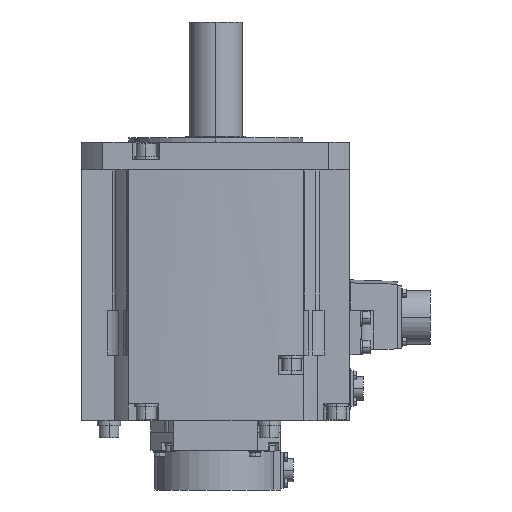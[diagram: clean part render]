
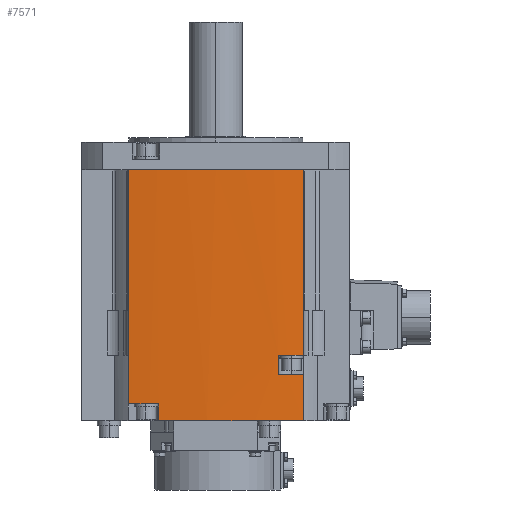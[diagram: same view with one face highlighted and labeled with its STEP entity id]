
A CAD part, left-side view. The second image highlights one B-rep face of the part: STEP entity #7571.
In plain terms, the highlighted cylindrical face has radius 680 mm (diameter 1360 mm), a partial arc.
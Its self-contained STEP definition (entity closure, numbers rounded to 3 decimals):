
#385=CARTESIAN_POINT('',(592.,0.,-139.5));
#386=DIRECTION('',(0.,0.,1.));
#387=DIRECTION('',(-0.997,-0.078,0.));
#388=AXIS2_PLACEMENT_3D('',#385,#386,#387);
#417=CARTESIAN_POINT('',(592.,0.,-139.5));
#418=DIRECTION('',(0.,0.,1.));
#419=DIRECTION('',(-0.998,-0.06,0.));
#420=AXIS2_PLACEMENT_3D('',#417,#418,#419);
#541=DIRECTION('',(0.,0.,-1.));
#542=VECTOR('',#541,153.5);
#543=CARTESIAN_POINT('',(-85.565,57.5,-18.));
#544=LINE('',#543,#542);
#565=CARTESIAN_POINT('',(592.,0.,-171.5));
#566=DIRECTION('',(0.,0.,-1.));
#567=DIRECTION('',(-0.998,0.064,0.));
#568=AXIS2_PLACEMENT_3D('',#565,#566,#567);
#570=CARTESIAN_POINT('',(592.,0.,-139.5));
#571=DIRECTION('',(0.,0.,-1.));
#572=DIRECTION('',(-0.997,-0.078,0.));
#573=AXIS2_PLACEMENT_3D('',#570,#571,#572);
#575=DIRECTION('',(0.,0.,1.));
#576=VECTOR('',#575,11.);
#577=CARTESIAN_POINT('',(-86.965,37.5,-182.5));
#578=LINE('',#577,#576);
#594=CARTESIAN_POINT('',(592.,0.,-171.5));
#595=DIRECTION('',(0.,0.,1.));
#596=DIRECTION('',(-0.998,0.064,0.));
#597=AXIS2_PLACEMENT_3D('',#594,#595,#596);
#604=CARTESIAN_POINT('',(592.,0.,-171.5));
#605=DIRECTION('',(0.,0.,1.));
#606=DIRECTION('',(-0.996,0.085,0.));
#607=AXIS2_PLACEMENT_3D('',#604,#605,#606);
#641=CARTESIAN_POINT('',(592.,0.,-182.5));
#642=DIRECTION('',(0.,0.,1.));
#643=DIRECTION('',(-0.998,0.055,0.));
#644=AXIS2_PLACEMENT_3D('',#641,#642,#643);
#871=DIRECTION('',(0.,0.,1.));
#872=VECTOR('',#871,30.25);
#873=CARTESIAN_POINT('',(-85.565,-57.5,-182.5));
#874=LINE('',#873,#872);
#2708=CARTESIAN_POINT('',(592.,0.,-18.));
#2709=DIRECTION('',(0.,0.,-1.));
#2710=DIRECTION('',(-0.996,-0.085,0.));
#2711=AXIS2_PLACEMENT_3D('',#2708,#2709,#2710);
#2751=DIRECTION('',(0.,0.,1.));
#2752=VECTOR('',#2751,121.5);
#2753=CARTESIAN_POINT('',(-85.565,-57.5,-139.5));
#2754=LINE('',#2753,#2752);
#2804=CARTESIAN_POINT('',(592.,0.,-18.));
#2805=DIRECTION('',(0.,0.,-1.));
#2806=DIRECTION('',(-1.,0.,0.));
#2807=AXIS2_PLACEMENT_3D('',#2804,#2805,#2806);
#3101=CARTESIAN_POINT('',(592.,0.,-152.25));
#3102=DIRECTION('',(0.,0.,-1.));
#3103=DIRECTION('',(-0.996,-0.085,0.));
#3104=AXIS2_PLACEMENT_3D('',#3101,#3102,#3103);
#3122=DIRECTION('',(0.,0.,1.));
#3123=VECTOR('',#3122,12.75);
#3124=CARTESIAN_POINT('',(-86.763,-41.,-152.25));
#3125=LINE('',#3124,#3123);
#5427=CARTESIAN_POINT('',(-88.,0.,-18.));
#5429=VERTEX_POINT('',#5427);
#5431=CARTESIAN_POINT('',(-85.565,57.5,-18.));
#5432=VERTEX_POINT('',#5431);
#5445=CARTESIAN_POINT('',(-85.565,-57.5,-18.));
#5447=VERTEX_POINT('',#5445);
#5518=CARTESIAN_POINT('',(-85.565,-57.5,-139.5));
#5520=VERTEX_POINT('',#5518);
#5559=CARTESIAN_POINT('',(-86.965,37.5,-182.5));
#5561=VERTEX_POINT('',#5559);
#5619=CARTESIAN_POINT('',(-86.965,37.5,-171.5));
#5620=VERTEX_POINT('',#5619);
#5643=CARTESIAN_POINT('',(-85.565,-57.5,-152.25));
#5644=CARTESIAN_POINT('',(-86.763,-41.,-152.25));
#5645=VERTEX_POINT('',#5643);
#5646=VERTEX_POINT('',#5644);
#5647=CARTESIAN_POINT('',(-85.565,-57.5,-182.5));
#5648=VERTEX_POINT('',#5647);
#5649=CARTESIAN_POINT('',(-85.565,57.5,-171.5));
#5650=VERTEX_POINT('',#5649);
#6702=CARTESIAN_POINT('',(-86.763,-41.,-139.5));
#6704=VERTEX_POINT('',#6702);
#6799=CARTESIAN_POINT('',(-85.945,-52.825,-139.5));
#6800=CARTESIAN_POINT('',(-86.358,-47.23,-139.5));
#6801=VERTEX_POINT('',#6799);
#6802=VERTEX_POINT('',#6800);
#6831=CARTESIAN_POINT('',(-86.607,43.505,-171.5));
#6832=CARTESIAN_POINT('',(-86.234,48.973,-171.5));
#6833=VERTEX_POINT('',#6831);
#6834=VERTEX_POINT('',#6832);
#7537=CARTESIAN_POINT('',(592.,0.,-18.75));
#7538=DIRECTION('',(0.,0.,-1.));
#7539=DIRECTION('',(-0.996,-0.085,0.));
#7540=AXIS2_PLACEMENT_3D('',#7537,#7538,#7539);
#7541=CYLINDRICAL_SURFACE('',#7540,680.);
#7543=ORIENTED_EDGE('',*,*,#7542,.T.);
#7545=ORIENTED_EDGE('',*,*,#7544,.F.);
#7546=ORIENTED_EDGE('',*,*,#7516,.F.);
#7548=ORIENTED_EDGE('',*,*,#7547,.F.);
#7550=ORIENTED_EDGE('',*,*,#7549,.F.);
#7552=ORIENTED_EDGE('',*,*,#7551,.F.);
#7553=ORIENTED_EDGE('',*,*,#7352,.F.);
#7555=ORIENTED_EDGE('',*,*,#7554,.T.);
#7556=ORIENTED_EDGE('',*,*,#7368,.F.);
#7558=ORIENTED_EDGE('',*,*,#7557,.F.);
#7560=ORIENTED_EDGE('',*,*,#7559,.F.);
#7562=ORIENTED_EDGE('',*,*,#7561,.F.);
#7564=ORIENTED_EDGE('',*,*,#7563,.F.);
#7566=ORIENTED_EDGE('',*,*,#7565,.T.);
#7568=ORIENTED_EDGE('',*,*,#7567,.F.);
#7569=EDGE_LOOP('',(#7543,#7545,#7546,#7548,#7550,#7552,#7553,#7555,#7556,#7558,
#7560,#7562,#7564,#7566,#7568));
#7570=FACE_OUTER_BOUND('',#7569,.F.);
#7571=ADVANCED_FACE('',(#7570),#7541,.T.);
#389=CIRCLE('',#388,680.);
#421=CIRCLE('',#420,680.);
#569=CIRCLE('',#568,680.);
#574=CIRCLE('',#573,680.);
#598=CIRCLE('',#597,680.);
#608=CIRCLE('',#607,680.);
#645=CIRCLE('',#644,680.);
#2712=CIRCLE('',#2711,680.);
#2808=CIRCLE('',#2807,680.);
#3105=CIRCLE('',#3104,680.);
#7352=EDGE_CURVE('',#6801,#5520,#389,.T.);
#7368=EDGE_CURVE('',#6704,#6802,#421,.T.);
#7516=EDGE_CURVE('',#5432,#5650,#544,.T.);
#7542=EDGE_CURVE('',#6833,#6834,#569,.T.);
#7544=EDGE_CURVE('',#5650,#6834,#608,.T.);
#7547=EDGE_CURVE('',#5429,#5432,#2808,.T.);
#7549=EDGE_CURVE('',#5447,#5429,#2712,.T.);
#7551=EDGE_CURVE('',#5520,#5447,#2754,.T.);
#7554=EDGE_CURVE('',#6801,#6802,#574,.T.);
#7557=EDGE_CURVE('',#5646,#6704,#3125,.T.);
#7559=EDGE_CURVE('',#5645,#5646,#3105,.T.);
#7561=EDGE_CURVE('',#5648,#5645,#874,.T.);
#7563=EDGE_CURVE('',#5561,#5648,#645,.T.);
#7565=EDGE_CURVE('',#5561,#5620,#578,.T.);
#7567=EDGE_CURVE('',#6833,#5620,#598,.T.);
